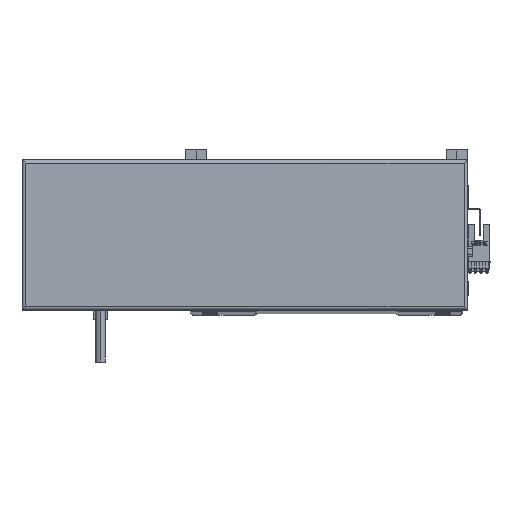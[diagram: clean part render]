
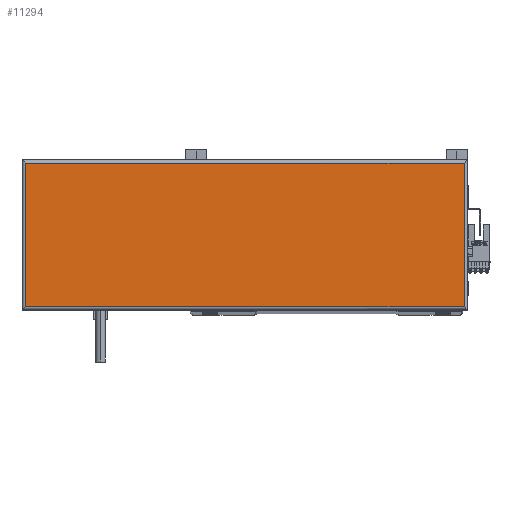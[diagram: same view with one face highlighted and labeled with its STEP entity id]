
A CAD part, top view. The second image highlights one B-rep face of the part: STEP entity #11294.
In plain terms, the highlighted planar face has unit normal (0, 0, 1).
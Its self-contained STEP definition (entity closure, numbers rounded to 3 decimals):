
#356 = ORIENTED_EDGE ( 'NONE', *, *, #39205, .T. ) ;
#541 = CARTESIAN_POINT ( 'NONE',  ( 2., 88., 44.8 ) ) ;
#2670 = EDGE_LOOP ( 'NONE', ( #3838, #19222, #356, #22462 ) ) ;
#3838 = ORIENTED_EDGE ( 'NONE', *, *, #6398, .T. ) ;
#5567 = DIRECTION ( 'NONE',  ( 0., -1., 0. ) ) ;
#6398 = EDGE_CURVE ( 'NONE', #29231, #6906, #39900, .T. ) ;
#6577 = LINE ( 'NONE', #35535, #20451 ) ;
#6906 = VERTEX_POINT ( 'NONE', #22810 ) ;
#11294 = ADVANCED_FACE ( 'NONE', ( #18561 ), #49249, .T. ) ;
#11963 = CARTESIAN_POINT ( 'NONE',  ( 267., 2., 44.8 ) ) ;
#16606 = DIRECTION ( 'NONE',  ( -1., 0., 0. ) ) ;
#17037 = VECTOR ( 'NONE', #28307, 1000. ) ;
#18561 = FACE_OUTER_BOUND ( 'NONE', #2670, .T. ) ;
#19222 = ORIENTED_EDGE ( 'NONE', *, *, #43393, .T. ) ;
#20451 = VECTOR ( 'NONE', #16606, 1000. ) ;
#21190 = CARTESIAN_POINT ( 'NONE',  ( 265., 2., 44.8 ) ) ;
#21960 = LINE ( 'NONE', #28110, #38137 ) ;
#22462 = ORIENTED_EDGE ( 'NONE', *, *, #33398, .T. ) ;
#22810 = CARTESIAN_POINT ( 'NONE',  ( 265., 88., 44.8 ) ) ;
#22844 = DIRECTION ( 'NONE',  ( 1., 0., 0. ) ) ;
#25796 = DIRECTION ( 'NONE',  ( 0., 1., 0. ) ) ;
#25956 = CARTESIAN_POINT ( 'NONE',  ( 2., 2., 44.8 ) ) ;
#28110 = CARTESIAN_POINT ( 'NONE',  ( 2., 0., 44.8 ) ) ;
#28307 = DIRECTION ( 'NONE',  ( 1., 0., 0. ) ) ;
#29231 = VERTEX_POINT ( 'NONE', #21190 ) ;
#32170 = VECTOR ( 'NONE', #25796, 1000. ) ;
#32305 = VERTEX_POINT ( 'NONE', #541 ) ;
#32989 = CARTESIAN_POINT ( 'NONE',  ( 265., 90., 44.8 ) ) ;
#33398 = EDGE_CURVE ( 'NONE', #46920, #29231, #36780, .T. ) ;
#33893 = CARTESIAN_POINT ( 'NONE',  ( 133.5, 45., 44.8 ) ) ;
#35535 = CARTESIAN_POINT ( 'NONE',  ( 0., 88., 44.8 ) ) ;
#36363 = AXIS2_PLACEMENT_3D ( 'NONE', #33893, #45245, #22844 ) ;
#36780 = LINE ( 'NONE', #11963, #17037 ) ;
#38137 = VECTOR ( 'NONE', #5567, 1000. ) ;
#39205 = EDGE_CURVE ( 'NONE', #32305, #46920, #21960, .T. ) ;
#39900 = LINE ( 'NONE', #32989, #32170 ) ;
#43393 = EDGE_CURVE ( 'NONE', #6906, #32305, #6577, .T. ) ;
#45245 = DIRECTION ( 'NONE',  ( 0., 0., 1. ) ) ;
#46920 = VERTEX_POINT ( 'NONE', #25956 ) ;
#49249 = PLANE ( 'NONE',  #36363 ) ;
